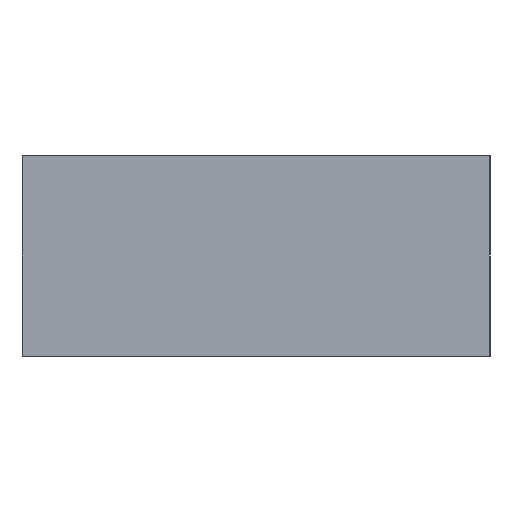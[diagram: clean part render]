
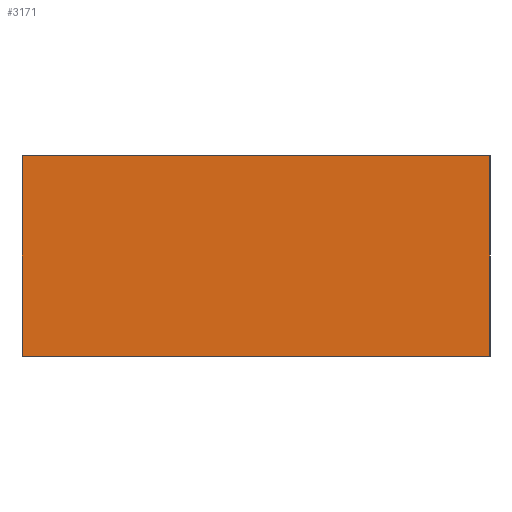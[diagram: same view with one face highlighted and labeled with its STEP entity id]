
A CAD part, left-side view. The second image highlights one B-rep face of the part: STEP entity #3171.
In plain terms, the highlighted planar face has unit normal (-1, 0, 0).
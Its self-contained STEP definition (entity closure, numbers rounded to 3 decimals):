
#33=DIRECTION('',(0.,1.,0.));
#34=VECTOR('',#33,7.);
#35=CARTESIAN_POINT('',(-78.834,60.895,0.));
#36=LINE('',#35,#34);
#382=DIRECTION('',(0.,1.,0.));
#383=VECTOR('',#382,7.);
#384=CARTESIAN_POINT('',(-78.834,60.895,-3.));
#385=LINE('',#384,#383);
#389=DIRECTION('',(0.,0.,1.));
#390=VECTOR('',#389,3.);
#391=CARTESIAN_POINT('',(-78.834,67.895,-3.));
#392=LINE('',#391,#390);
#403=DIRECTION('',(0.,0.,1.));
#404=VECTOR('',#403,3.);
#405=CARTESIAN_POINT('',(-78.834,60.895,-3.));
#406=LINE('',#405,#404);
#2550=CARTESIAN_POINT('',(-78.834,60.895,0.));
#2551=CARTESIAN_POINT('',(-78.834,67.895,0.));
#2552=VERTEX_POINT('',#2550);
#2553=VERTEX_POINT('',#2551);
#2638=CARTESIAN_POINT('',(-78.834,60.895,-3.));
#2639=VERTEX_POINT('',#2638);
#2640=CARTESIAN_POINT('',(-78.834,67.895,-3.));
#2641=VERTEX_POINT('',#2640);
#3157=CARTESIAN_POINT('',(-78.834,67.895,0.));
#3158=DIRECTION('',(-1.,0.,0.));
#3159=DIRECTION('',(0.,-1.,0.));
#3160=AXIS2_PLACEMENT_3D('',#3157,#3158,#3159);
#3161=PLANE('',#3160);
#3162=ORIENTED_EDGE('',*,*,#3019,.F.);
#3164=ORIENTED_EDGE('',*,*,#3163,.F.);
#3166=ORIENTED_EDGE('',*,*,#3165,.T.);
#3168=ORIENTED_EDGE('',*,*,#3167,.T.);
#3169=EDGE_LOOP('',(#3162,#3164,#3166,#3168));
#3170=FACE_OUTER_BOUND('',#3169,.F.);
#3171=ADVANCED_FACE('',(#3170),#3161,.T.);
#3019=EDGE_CURVE('',#2552,#2553,#36,.T.);
#3163=EDGE_CURVE('',#2639,#2552,#406,.T.);
#3165=EDGE_CURVE('',#2639,#2641,#385,.T.);
#3167=EDGE_CURVE('',#2641,#2553,#392,.T.);
